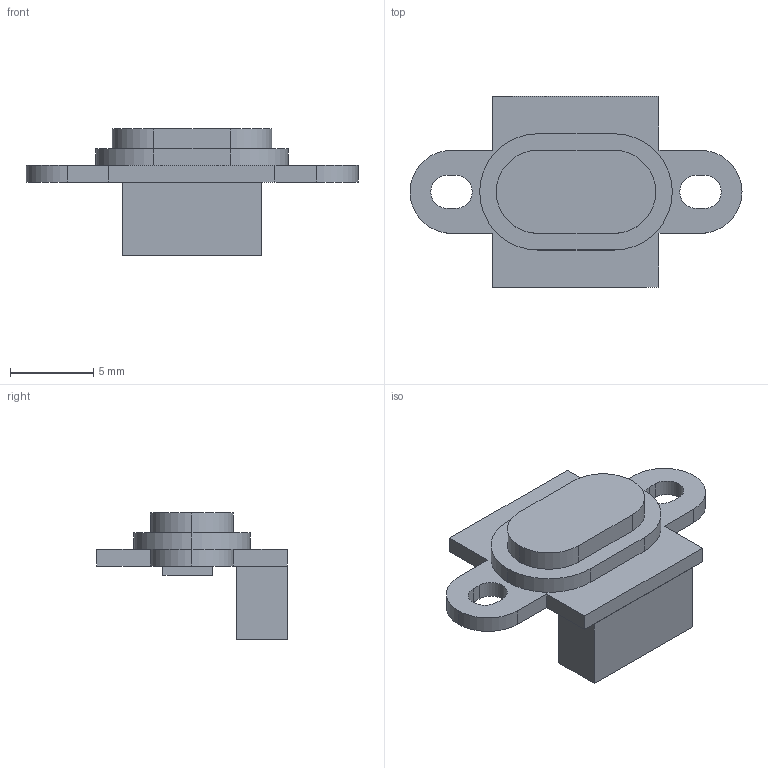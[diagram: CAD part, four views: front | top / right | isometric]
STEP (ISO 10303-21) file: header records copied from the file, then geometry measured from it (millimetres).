
FILE_DESCRIPTION (( 'STEP AP214' ), '1' );
FILE_NAME ('VB02A.STEP', '2025-09-03T08:19:22', ( '' ), ( '' ), 'SwSTEP 2.0', 'SolidWorks 2020', '' );
FILE_SCHEMA (( 'AUTOMOTIVE_DESIGN' ));
Length unit declared in the file: millimetre
Products named in the file (1): VB02A
Bounding box: 20 x 11.5 x 7.6 mm (x, y, z)
Volume: 352.5 mm3; surface area: 886.3 mm2
Topology: 5 solids, 5 shells, 205 faces, 540 edges, 360 vertices
Faces by surface type: plane 128, bspline 55, cylinder 22
Entity records: 8016 total; most frequent: CARTESIAN_POINT 3073, ORIENTED_EDGE 1080, DIRECTION 776, EDGE_CURVE 540, VECTOR 386, LINE 386, VERTEX_POINT 360, EDGE_LOOP 228
